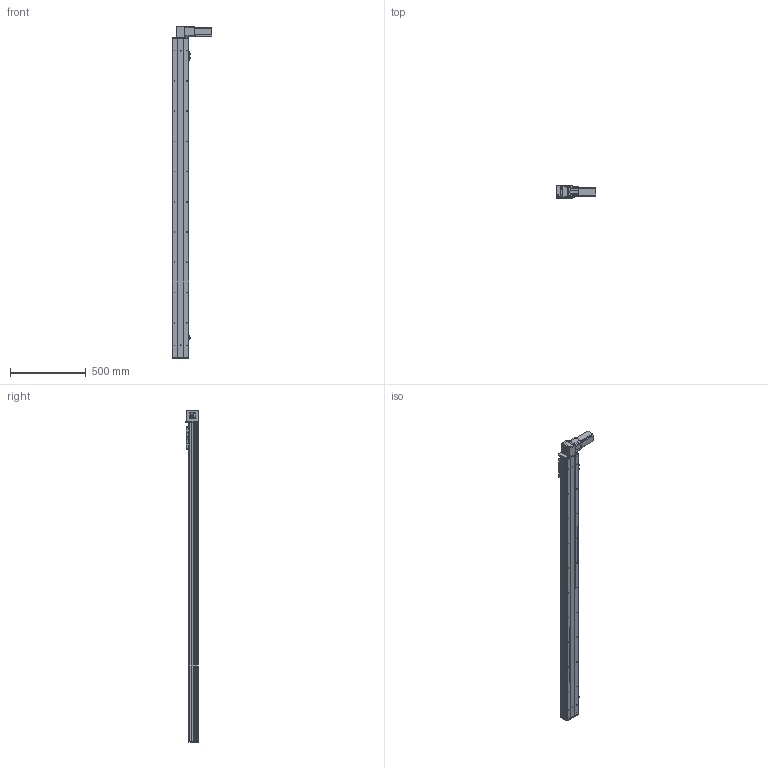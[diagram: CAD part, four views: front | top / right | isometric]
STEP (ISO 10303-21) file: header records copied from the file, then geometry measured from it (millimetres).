
FILE_DESCRIPTION (( 'STEP AP203' ), '1' );
FILE_NAME ('Y10CB-D90-S1850-BD-P400W.STEP', '2020-02-17T02:51:25', ( '微软用户' ), ( '微软中国' ), 'SwSTEP 2.0', 'SolidWorks 2017', '' );
FILE_SCHEMA (( 'CONFIG_CONTROL_DESIGN' ));
Length unit declared in the file: millimetre
Products named in the file (16): Y135C-陔俋离換覜結え-; Y100-135俋离換覜ん--; 0CB-雄赽釱---; 0B-源倛裔啣; Y10B--々湍喘謫眊--666; 0Cb-俋欶---; 0B-埴倛裔啣; 0B-薊粣ん眊; Y10B-々湍喘謫眊楊擘啣--; 10CB-詩湍-; Y10CB-D90-S1850-BD-P400W; san松下电机400不带刹车----; Y10CB- 掛极耜裔啣-毀---; Y10C---詩湍揤啣; 10CB9-掛极; 10CB-耜裔
Assembly tree (19 placements, depth 2):
  Y10CB-D90-S1850-BD-P400W
    0CB-雄赽釱---
    0Cb-俋欶---
    Y10B-々湍喘謫眊楊擘啣--
    san松下电机400不带刹车----
    0B-源倛裔啣
    0B-埴倛裔啣
    10CB-詩湍-
    Y10CB- 掛极耜裔啣-毀---  x2
    Y10C---詩湍揤啣  x2
    10CB9-掛极
    10CB-耜裔
    Y135C-陔俋离換覜結え-
    Y100-135俋离換覜ん--  x3
    Y10B--々湍喘謫眊--666
    0B-薊粣ん眊
Bounding box: 258 x 80.5 x 2196 mm (x, y, z)
Volume: 4619538.6 mm3; surface area: 2116105.3 mm2
Topology: 19 solids, 19 shells, 948 faces, 2542 edges, 1652 vertices
Faces by surface type: cylinder 480, plane 444, cone 24
Entity records: 29569 total; most frequent: CARTESIAN_POINT 5496, DIRECTION 4729, ORIENTED_EDGE 4554, EDGE_CURVE 2277, AXIS2_PLACEMENT_3D 1695, VERTEX_POINT 1478, VECTOR 1339, LINE 1339
